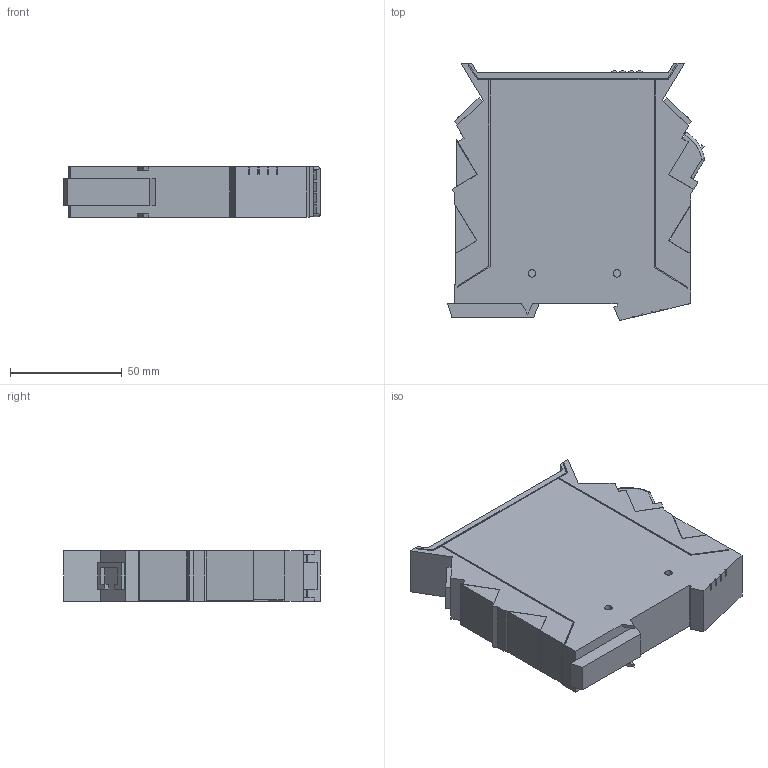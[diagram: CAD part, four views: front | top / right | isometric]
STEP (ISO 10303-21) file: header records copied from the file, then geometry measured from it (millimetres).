
FILE_DESCRIPTION((''),'2;1');
FILE_NAME('440R-GL2S2P_ASM','2015-10-10T',('sta'),(''),'PRO/ENGINEER BY PARAMETRIC TECHNOLOGY CORPORATION, 2013230','PRO/ENGINEER BY PARAMETRIC TECHNOLOGY CORPORATION, 2013230','');
FILE_SCHEMA(('CONFIG_CONTROL_DESIGN'));
Length unit declared in the file: inch
Products named in the file (4): 440R_BODY_DA; PLUG_DA; PLUG_DA2; 440R-GL2S2P_ASM
Assembly tree (5 placements, depth 2):
  440R-GL2S2P_ASM
    440R_BODY_DA
    PLUG_DA
    PLUG_DA2  x3
Bounding box: 115.2 x 115.19 x 22.5 mm (x, y, z)
Volume: 244389.9 mm3; surface area: 39813.5 mm2
Topology: 5 solids, 5 shells, 254 faces, 652 edges, 432 vertices
Faces by surface type: plane 216, cylinder 26, bspline 8, torus 2, sphere 2
Entity records: 7718 total; most frequent: CARTESIAN_POINT 1547, ORIENTED_EDGE 1268, DIRECTION 1212, EDGE_CURVE 634, VECTOR 538, LINE 538, VERTEX_POINT 420, AXIS2_PLACEMENT_3D 337
